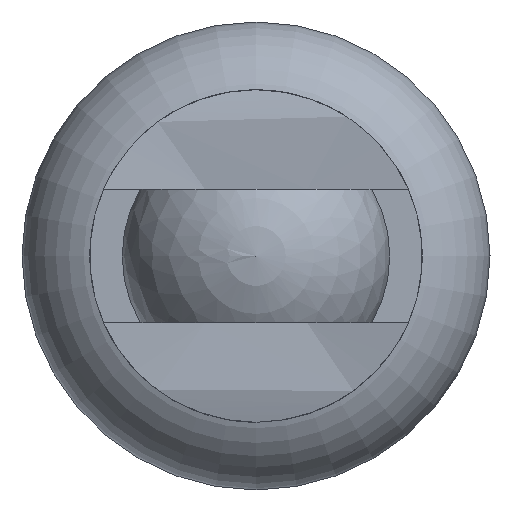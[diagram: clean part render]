
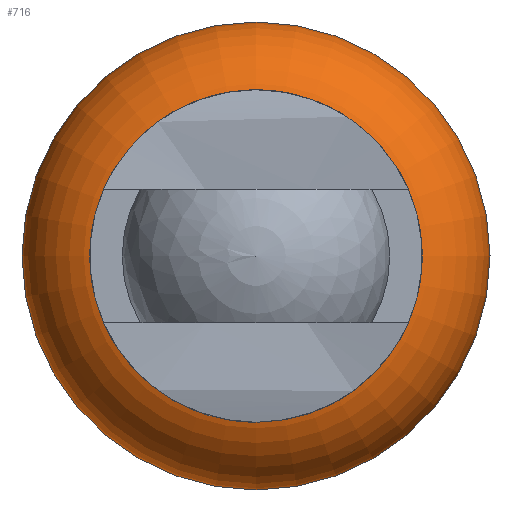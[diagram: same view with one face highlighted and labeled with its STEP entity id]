
A CAD part, left-side view. The second image highlights one B-rep face of the part: STEP entity #716.
In plain terms, the highlighted toroidal (fillet/blend) face has major radius 7.9 mm and minor radius 6.1 mm.
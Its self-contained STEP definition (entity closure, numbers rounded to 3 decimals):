
#103=TOROIDAL_SURFACE('',#786,7.9,6.1);
#106=ORIENTED_EDGE('',*,*,#237,.T.);
#107=ORIENTED_EDGE('',*,*,#238,.F.);
#237=EDGE_CURVE('',#303,#303,#360,.T.);
#238=EDGE_CURVE('',#304,#304,#361,.T.);
#303=VERTEX_POINT('',#1119);
#304=VERTEX_POINT('',#1122);
#360=CIRCLE('',#785,8.385);
#361=CIRCLE('',#787,14.);
#409=EDGE_LOOP('',(#106));
#410=EDGE_LOOP('',(#107));
#495=FACE_BOUND('',#409,.T.);
#496=FACE_BOUND('',#410,.T.);
#716=ADVANCED_FACE('',(#495,#496),#103,.T.);
#785=AXIS2_PLACEMENT_3D('',#1118,#894,#895);
#786=AXIS2_PLACEMENT_3D('',#1120,#896,#897);
#787=AXIS2_PLACEMENT_3D('',#1121,#898,#899);
#894=DIRECTION('',(1.,0.,0.));
#895=DIRECTION('',(0.,0.,-1.));
#896=DIRECTION('',(1.,0.,0.));
#897=DIRECTION('',(0.,0.,-1.));
#898=DIRECTION('',(1.,0.,0.));
#899=DIRECTION('',(0.,0.,-1.));
#1118=CARTESIAN_POINT('',(1.,0.,0.));
#1119=CARTESIAN_POINT('',(1.,0.,-8.385));
#1120=CARTESIAN_POINT('',(7.081,0.,0.));
#1121=CARTESIAN_POINT('',(7.081,0.,0.));
#1122=CARTESIAN_POINT('',(7.081,0.,-14.));
